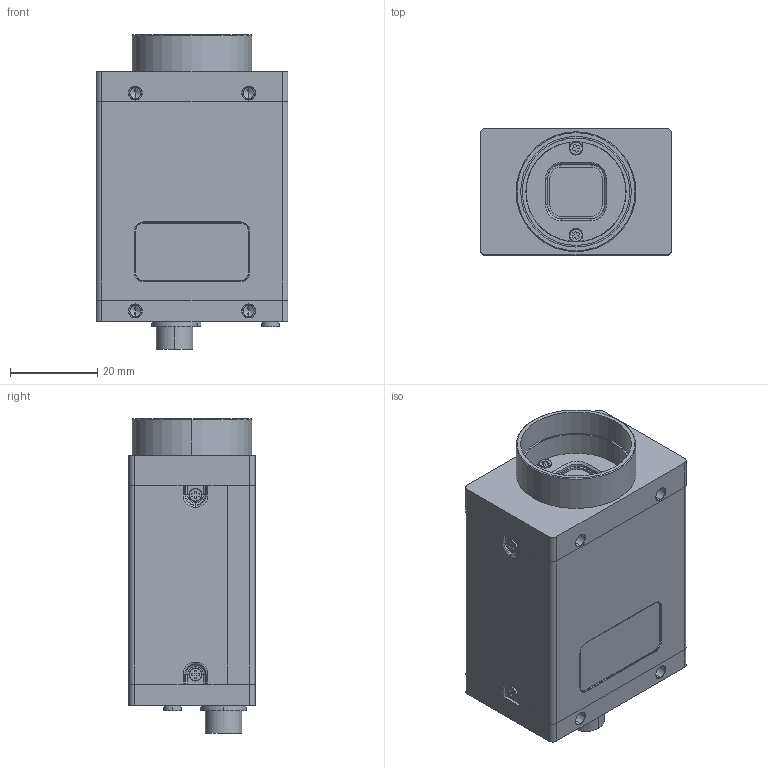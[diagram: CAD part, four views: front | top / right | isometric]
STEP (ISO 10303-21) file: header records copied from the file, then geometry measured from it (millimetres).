
FILE_DESCRIPTION (( 'STEP AP203' ), '1' );
FILE_NAME ('GSR-003-R0.STEP', '2013-12-20T21:45:17', ( 'Gus' ), ( '' ), 'SwSTEP 2.0', 'SolidWorks 2014', '' );
FILE_SCHEMA (( 'CONFIG_CONTROL_DESIGN' ));
Length unit declared in the file: millimetre
Products named in the file (1): GSR-003-R0
Bounding box: 44 x 29 x 72.2 mm (x, y, z)
Volume: 72577.1 mm3; surface area: 13515.6 mm2
Topology: 1 solids, 1 shells, 471 faces, 1155 edges, 714 vertices
Faces by surface type: plane 223, cylinder 137, cone 62, torus 48, sphere 1
Entity records: 13749 total; most frequent: DIRECTION 2502, CARTESIAN_POINT 2332, ORIENTED_EDGE 2272, EDGE_CURVE 1136, AXIS2_PLACEMENT_3D 898, VERTEX_POINT 712, VECTOR 706, LINE 706
